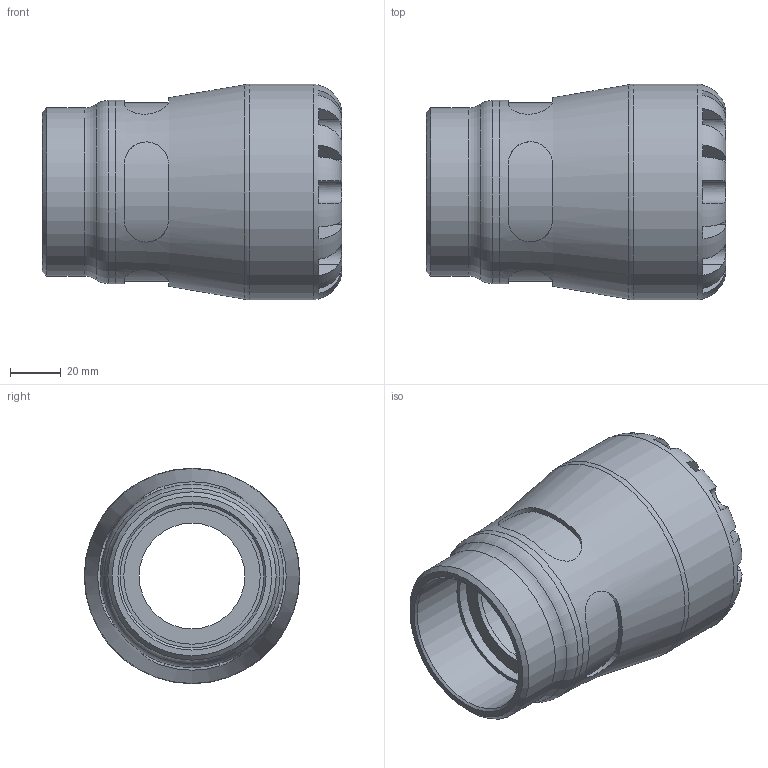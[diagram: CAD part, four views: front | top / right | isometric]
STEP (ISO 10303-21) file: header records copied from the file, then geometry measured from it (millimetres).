
FILE_DESCRIPTION(/* description */ ('PLASSON FEMALE ADAPTOR 50x2" SERIES 1'),/* implementation_level */ '2;1');
FILE_NAME(/* name */ 'C:\Dropbox\KIMPROJECTS-Inventor\99-16-3568-Processing\S1\53mp\1003G\1003G0050020_1903G0050020.ipt.stp',/* time_stamp */ '2019-10-29T10:11:54+02:00',/* author */ ('KIM'),/* organization */ (''),/* preprocessor_version */ 'ST-DEVELOPER v15.6',/* originating_system */ 'Autodesk Inventor 2015',/* authorisation */ '');
FILE_SCHEMA (('AUTOMOTIVE_DESIGN { 1 0 10303 214 3 1 1 }'));
Length unit declared in the file: millimetre
Products named in the file (1): 1003G0050020_1903G0050020
Bounding box: 118 x 85 x 85 mm (x, y, z)
Volume: 292736.2 mm3; surface area: 55532.7 mm2
Topology: 1 solids, 1 shells, 104 faces, 255 edges, 159 vertices
Faces by surface type: plane 61, cylinder 35, torus 5, cone 3
Full cylindrical faces by diameter (mm): 41.667 x1, 50 x1, 53.823 x1, 56.656 x1, 66.3 x1, 72.25 x1, 85 x1
Entity records: 3778 total; most frequent: CARTESIAN_POINT 1443, DIRECTION 472, ORIENTED_EDGE 470, EDGE_CURVE 235, AXIS2_PLACEMENT_3D 196, VERTEX_POINT 155, EDGE_LOOP 128, FACE_OUTER_BOUND 104
